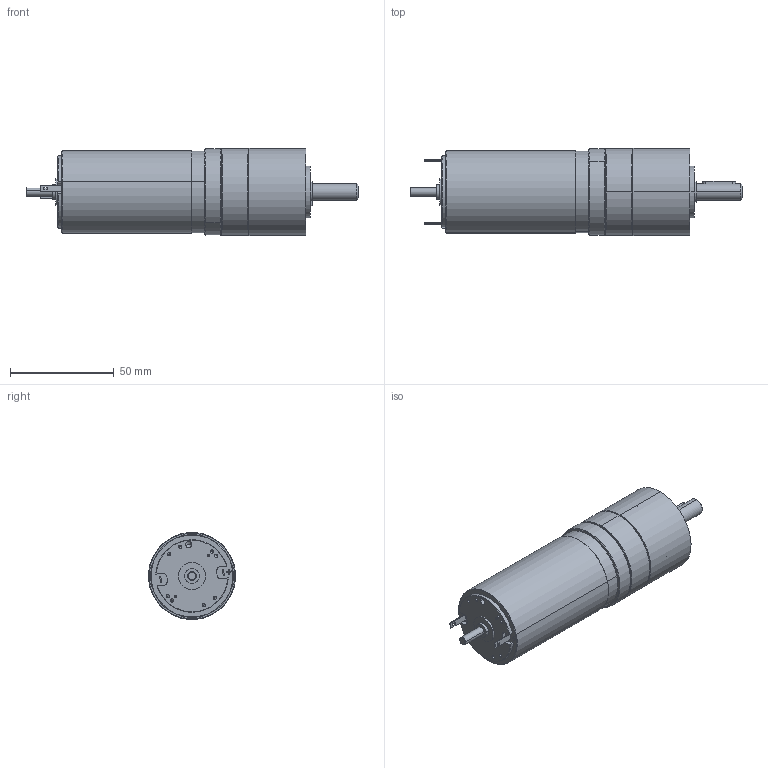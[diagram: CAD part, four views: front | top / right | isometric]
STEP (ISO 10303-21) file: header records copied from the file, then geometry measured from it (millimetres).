
FILE_DESCRIPTION (( 'STEP AP214' ), '1' );
FILE_NAME ('RE40+PM42-1ETAGE.STEP', '2014-08-27T14:29:19', ( '' ), ( '' ), 'SwSTEP 2.0', 'SolidWorks 2013', '' );
FILE_SCHEMA (( 'AUTOMOTIVE_DESIGN' ));
Length unit declared in the file: millimetre
Products named in the file (18): 8007595_LAGERFLANSCH_12; RE40G_Part; RE40+PM42-1ETAGE; bmz_1249466_2; D912_M3X10_1_1; SCHRAUBE_1241978_22; 8012556_MOTORRITZEL_Z17_2; 8001288_ANLAUFSCHEIBE_1ST_11; MOTORFLANSCH_1240243_1_1; P8209_8007589_ZAHNKRANZ_Z46_12; 8007606_DICHTRING_12; 3X3X16_D6885A_13; D471_8X0_8_13; 8001316_ABTRIEB_LK4_KPL_12; 8001305_LAGERBOLZEN_13; VBZ_K7841_ABTRIEB_AF0_13; DIN998_PS_8X14X1_13; D625-608-2RS_12
Assembly tree (27 placements, depth 4):
  RE40+PM42-1ETAGE
    RE40G_Part
    bmz_1249466_2
      8007595_LAGERFLANSCH_12
      D625-608-2RS_12  x2
      DIN998_PS_8X14X1_13  x2
      8001316_ABTRIEB_LK4_KPL_12
        VBZ_K7841_ABTRIEB_AF0_13
        8001305_LAGERBOLZEN_13  x3
      D471_8X0_8_13
      3X3X16_D6885A_13
      8007606_DICHTRING_12  x2
      P8209_8007589_ZAHNKRANZ_Z46_12
      MOTORFLANSCH_1240243_1_1
      8001288_ANLAUFSCHEIBE_1ST_11
      8012556_MOTORRITZEL_Z17_2
      SCHRAUBE_1241978_22  x4
      D912_M3X10_1_1  x3
Bounding box: 160.2 x 42 x 42 mm (x, y, z)
Volume: 103699 mm3; surface area: 54918.6 mm2
Topology: 19 solids, 51 shells, 982 faces, 2480 edges, 1590 vertices
Faces by surface type: cylinder 455, plane 329, cone 140, bspline 58
Entity records: 28510 total; most frequent: CARTESIAN_POINT 6232, DIRECTION 4534, ORIENTED_EDGE 4016, EDGE_CURVE 2038, AXIS2_PLACEMENT_3D 1742, VERTEX_POINT 1336, LINE 1050, VECTOR 1050
